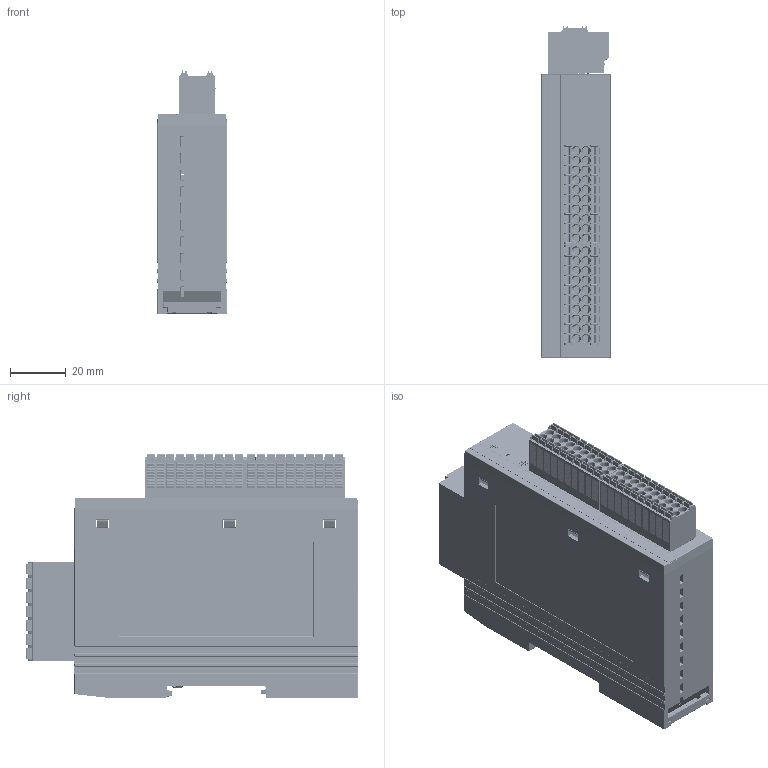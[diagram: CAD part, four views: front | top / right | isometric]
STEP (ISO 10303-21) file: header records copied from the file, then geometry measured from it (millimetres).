
FILE_DESCRIPTION((''),'2;1');
FILE_NAME('PRO_XX4_4_SW0003','2022-08-10T10:25:08',('董'),(''),'CREO PARAMETRIC BY PTC INC, 2020033','CREO PARAMETRIC BY PTC INC, 2020033','');
FILE_SCHEMA(('CONFIG_CONTROL_DESIGN'));
Products named in the file (1): PRO_XX4_4_SW0003
Bounding box: 25 x 119.4 x 87.5 mm (x, y, z)
Volume: 67808.1 mm3; surface area: 64258.8 mm2
Topology: 1 solids, 1 shells, 8491 faces, 22119 edges, 13730 vertices
Faces by surface type: plane 4885, cylinder 2360, bspline 534, cone 285, torus 219, sphere 208
Entity records: 278588 total; most frequent: CARTESIAN_POINT 75556, ORIENTED_EDGE 43870, DIRECTION 39521, EDGE_CURVE 21935, VECTOR 15637, LINE 15637, VERTEX_POINT 13730, AXIS2_PLACEMENT_3D 11942
